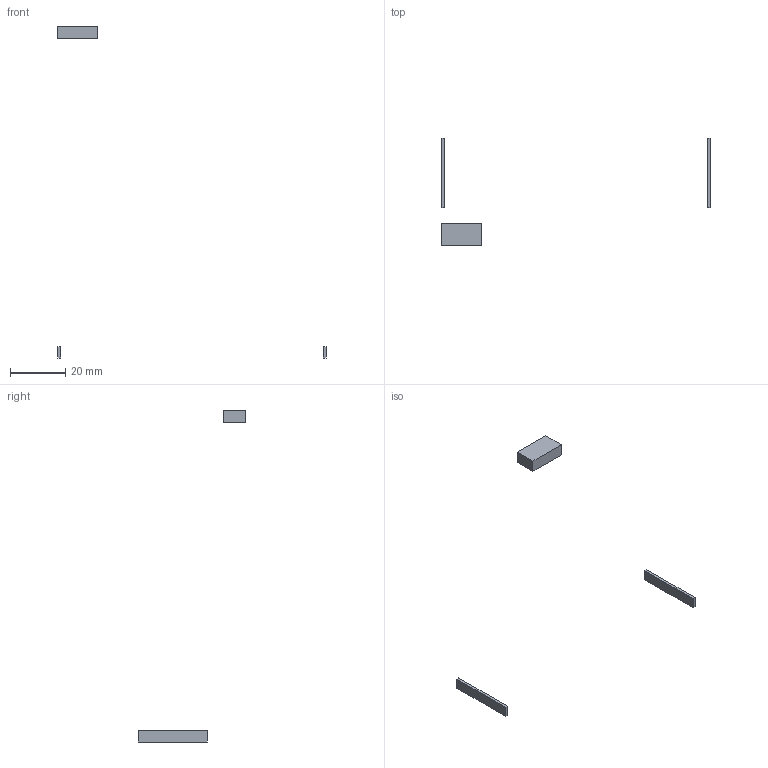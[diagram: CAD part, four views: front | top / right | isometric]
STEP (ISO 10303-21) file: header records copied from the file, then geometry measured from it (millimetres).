
FILE_DESCRIPTION(('Open CASCADE Model'),'2;1');
FILE_NAME('strap','2026-08-12T02:42:46',('Author'),('Open CASCADE'), 'Open CASCADE STEP processor 7.9','build123d','Unknown');
FILE_SCHEMA(('AUTOMOTIVE_DESIGN { 1 0 10303 214 1 1 1 1 }'));
Length unit declared in the file: millimetre
Products named in the file (4): strap; COMPOUND
Assembly tree (3 placements, depth 2):
  strap
    COMPOUND
    COMPOUND
    COMPOUND
Bounding box: 97 x 39 x 120 mm (x, y, z)
Volume: 722 mm3; surface area: 950.5 mm2
Topology: 3 solids, 3 shells, 18 faces, 36 edges, 24 vertices
Faces by surface type: plane 18
Entity records: 988 total; most frequent: CARTESIAN_POINT 154, DIRECTION 152, LINE 108, VECTOR 108, ORIENTED_EDGE 72, PCURVE 72, DEFINITIONAL_REPRESENTATION 72, EDGE_CURVE 36
